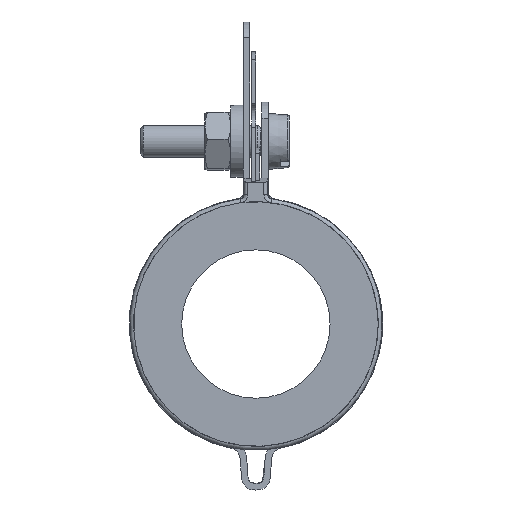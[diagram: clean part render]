
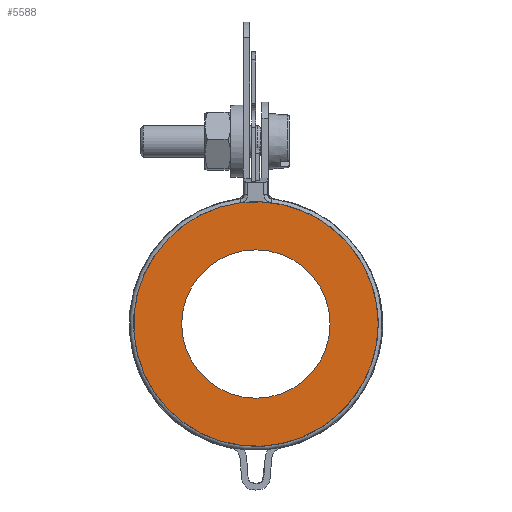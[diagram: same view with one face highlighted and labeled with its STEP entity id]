
A CAD part, front view. The second image highlights one B-rep face of the part: STEP entity #5588.
In plain terms, the highlighted planar face has unit normal (0, -1, 0).
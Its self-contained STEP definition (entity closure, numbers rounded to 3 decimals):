
#180=FACE_BOUND($,#1226,.T.);
#538=CIRCLE($,#6135,15.25);
#543=CIRCLE($,#6179,9.25);
#837=FACE_OUTER_BOUND($,#1225,.T.);
#1225=EDGE_LOOP($,(#4690));
#1226=EDGE_LOOP($,(#4691));
#2521=VERTEX_POINT($,#9554);
#2532=VERTEX_POINT($,#9619);
#3240=EDGE_CURVE($,#2521,#2521,#538,.T.);
#3255=EDGE_CURVE($,#2532,#2532,#543,.T.);
#4690=ORIENTED_EDGE($,*,*,#3240,.T.);
#4691=ORIENTED_EDGE($,*,*,#3255,.T.);
#4965=PLANE($,#6182);
#5588=ADVANCED_FACE($,(#837,#180),#4965,.T.);
#6135=AXIS2_PLACEMENT_3D($,#9555,#7643,#7644);
#6179=AXIS2_PLACEMENT_3D($,#9620,#7741,#7742);
#6182=AXIS2_PLACEMENT_3D($,#9623,#7747,#7748);
#7643=DIRECTION('center_axis',(0.,-1.,0.));
#7644=DIRECTION('ref_axis',(-1.,0.,0.));
#7741=DIRECTION('center_axis',(0.,1.,0.));
#7742=DIRECTION('ref_axis',(1.,0.,0.));
#7747=DIRECTION('center_axis',(0.,-1.,0.));
#7748=DIRECTION('ref_axis',(0.,0.,-1.));
#9554=CARTESIAN_POINT('',(15.25,0.,0.));
#9555=CARTESIAN_POINT('Origin',(0.,0.,0.));
#9619=CARTESIAN_POINT('',(-9.25,0.,0.));
#9620=CARTESIAN_POINT('Origin',(0.,0.,0.));
#9623=CARTESIAN_POINT('Origin',(0.,0.,0.));
